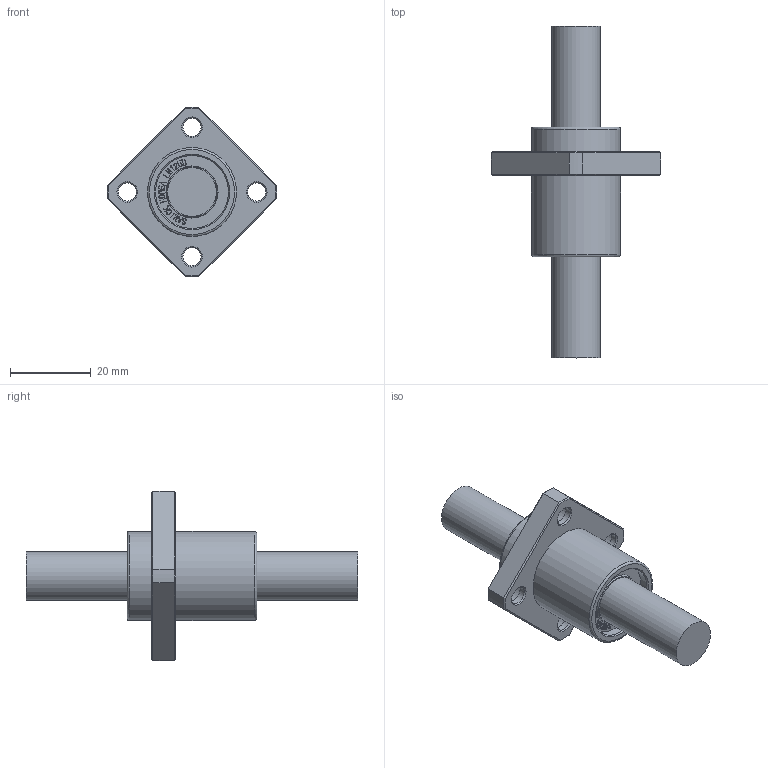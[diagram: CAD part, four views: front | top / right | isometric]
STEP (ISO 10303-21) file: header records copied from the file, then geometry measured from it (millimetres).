
FILE_DESCRIPTION(/* description */ (''),/* implementation_level */ '2;1');
FILE_NAME(/* name */ 'W:\(01) 2024년 홈페이지 CAD파일 최신화\LMEKP\IPT\LMEKP12UU.stp',/* time_stamp */ '2025-01-25T12:55:46+09:00',/* author */ ('서우현'),/* organization */ (''),/* preprocessor_version */ 'ST-DEVELOPER v17.2',/* originating_system */ 'Autodesk Inventor 2019',/* authorisation */ '');
FILE_SCHEMA (('AUTOMOTIVE_DESIGN { 1 0 10303 214 3 1 1 }'));
Length unit declared in the file: millimetre
Products named in the file (1): LM5
Bounding box: 41.98 x 82 x 41.98 mm (x, y, z)
Volume: 19991.5 mm3; surface area: 7167 mm2
Topology: 1 solids, 1 shells, 864 faces, 2424 edges, 1616 vertices
Faces by surface type: bspline 580, plane 244, cone 20, cylinder 18, torus 2
Full cylindrical faces by diameter (mm): 4.5 x4, 8 x4, 12 x2, 18 x2, 22 x2
Entity records: 29583 total; most frequent: CARTESIAN_POINT 10817, ORIENTED_EDGE 4848, EDGE_CURVE 2424, DIRECTION 1908, VERTEX_POINT 1616, B_SPLINE_CURVE_WITH_KNOTS 1160, LINE 1158, VECTOR 1158
